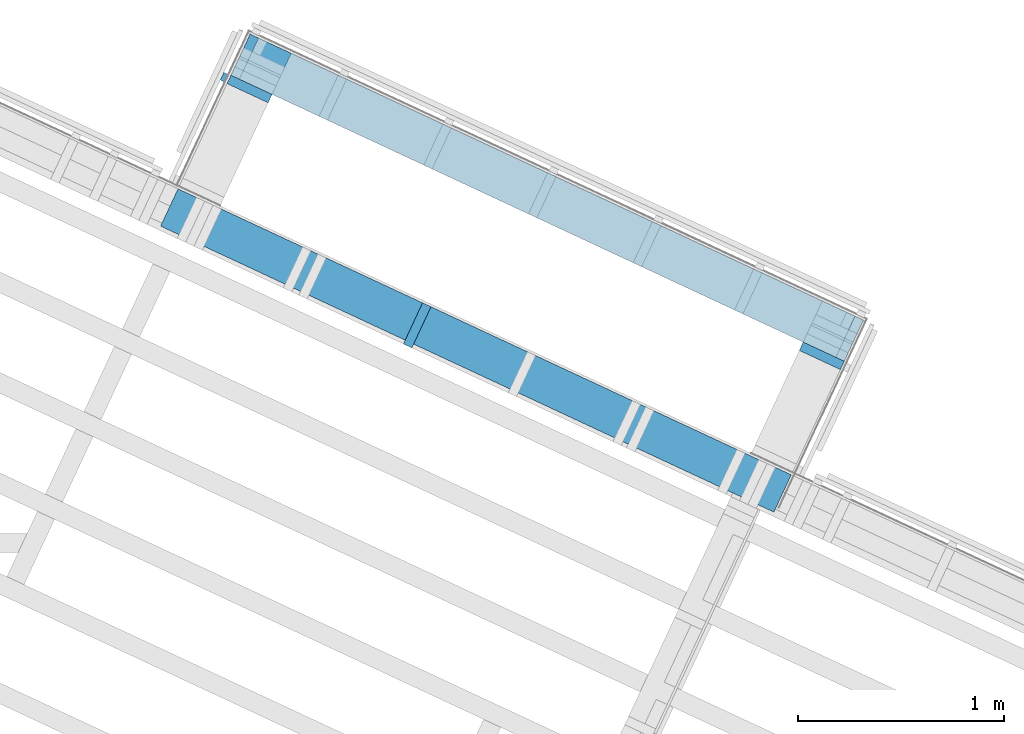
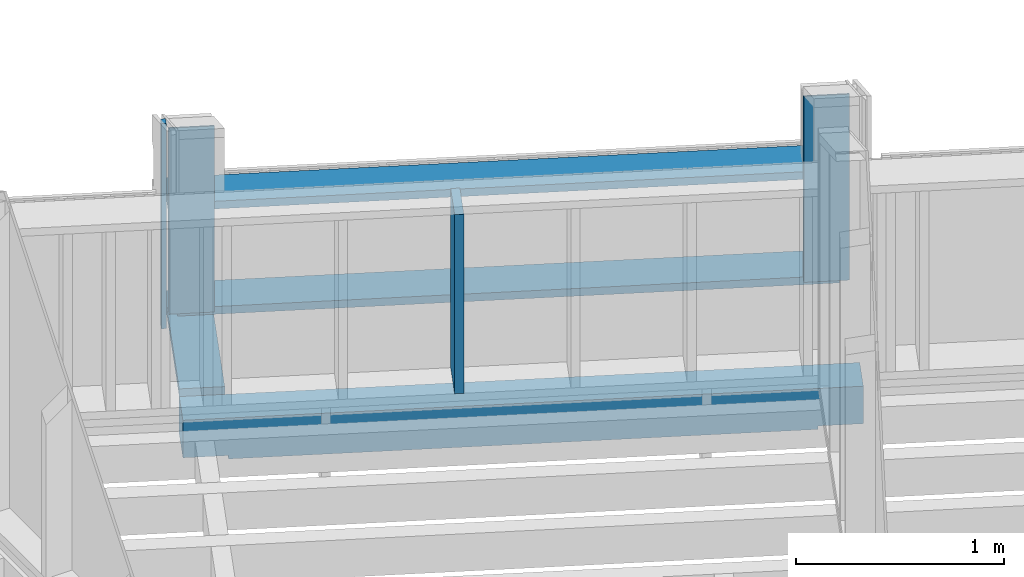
# One storey, part 13 of 24: 8 members.
"""IFC2X3 building model written with IfcOpenShell, lengths in metres."""

from ifc_helpers import new_model, si_unit, direction, frame, origin_with_axes, place, context, subcontext, project, spatial, faceted_brep, material, element, save


model = new_model("IFC2X3")

# Units and contexts
model_context = context("Model", 3, precision=1e-06, world=origin_with_axes(), true_north=direction((0.0, 1.0, 0.0)))
body_context = subcontext(model_context, "Body", "Model", "MODEL_VIEW")
ifc_project = project(units=[si_unit("LENGTHUNIT", "METRE"), si_unit("AREAUNIT", "SQUARE_METRE"), si_unit("VOLUMEUNIT", "CUBIC_METRE"), si_unit("PLANEANGLEUNIT", "RADIAN")], contexts=[model_context])

# Site, building, storey
site_placement = place(None, origin_with_axes())
site = spatial("IfcSite", under=ifc_project, at=site_placement, CompositionType="ELEMENT")
building_placement = place(site_placement, origin_with_axes())
building = spatial("IfcBuilding", under=site, at=building_placement, Name="Building 1", CompositionType="ELEMENT")
storey_placement = place(building_placement, origin_with_axes())
storey = spatial("IfcBuildingStorey", under=building, at=storey_placement, Name="Premier Etage", CompositionType="ELEMENT", Elevation=0.0)

# Members
ifc_material_1 = material(Name="Epicéa C24")
member_1_placement = place(storey_placement, frame((8.1579434, 7.8816029, 4.014291), z_axis=(-0.9063078, 0.4226183, 0.0), x_axis=(0.0, 0.0, -1.0)))
element("IfcMember", 1, at=member_1_placement, inside=storey, material=ifc_material_1, Name="latte 27/40", context=body_context, shape_type="Brep", body=[
    faceted_brep([(1.204291, 0.02, -0.012), (1.204291, 0.02, 0.012), (1.204291, -0.02, 0.012), (1.204291, -0.02, -0.012), (0.0, 0.02, 0.012), (0.0, 0.02, -0.012), (0.0, -0.02, -0.012), (0.0, -0.02, 0.012)], [[[0, 1, 2, 3]], [[4, 5, 6, 7]], [[3, 6, 5, 0]], [[2, 7, 6, 3]], [[1, 4, 7, 2]], [[0, 5, 4, 1]]]),
])
member_2_placement = place(storey_placement, frame((8.236598, 7.9911233, 3.4903974), z_axis=(-0.4226183, -0.9063078, 0.0), x_axis=(0.9063078, -0.4226183, 0.0)))
element("IfcMember", 2, at=member_2_placement, inside=storey, material=ifc_material_1, Name="Montant", context=body_context, shape_type="Brep", body=[
    faceted_brep([(0.0, -0.0225, -0.11), (0.0, -0.0225, 0.11), (0.0, 0.0225, 0.11), (0.0, 0.0225, -0.11), (3.284, -0.0225, 0.11), (3.284, -0.0225, -0.11), (3.284, 0.0225, -0.11), (3.284, 0.0225, 0.11)], [[[0, 1, 2, 3]], [[4, 5, 6, 7]], [[1, 4, 7, 2]], [[0, 5, 4, 1]], [[3, 6, 5, 0]], [[2, 7, 6, 3]]]),
])
member_3_placement = place(storey_placement, frame((8.2773819, 7.9721054, 2.8725), z_axis=(-0.4226183, -0.9063078, 0.0), x_axis=(0.9063078, -0.4226183, 0.0)))
element("IfcMember", 3, at=member_3_placement, inside=storey, material=ifc_material_1, Name="Montant", context=body_context, shape_type="Brep", body=[
    faceted_brep([(3.194, -0.0225, 0.11), (0.0, -0.0225, 0.11), (0.0, -0.0225, -0.11), (3.194, -0.0225, -0.11), (0.0, 0.0225, -0.11), (3.194, 0.0225, -0.11), (0.0, 0.0225, 0.11), (3.194, 0.0225, 0.11)], [[[0, 1, 2, 3]], [[3, 2, 4, 5]], [[6, 7, 5, 4]], [[7, 0, 3, 5]], [[7, 6, 1, 0]], [[1, 6, 4, 2]]]),
])
member_4_placement = place(storey_placement, frame((8.3827799, 8.0443291, 2.8275), z_axis=(0.9063078, -0.4226183, 0.0), x_axis=(-0.4226183, -0.9063078, 0.0)))
element("IfcMember", 4, at=member_4_placement, inside=storey, material=ifc_material_1, Name="Lisse basse", context=body_context, shape_type="Brep", body=[
    faceted_brep([(0.0, -0.0225, 0.11), (0.8282178, -0.0225, 0.11), (0.8282178, 0.0225, 0.11), (0.0, 0.0225, 0.11), (0.8282178, 0.0225, -0.11), (0.0, 0.0225, -0.11), (0.8282178, -0.0225, -0.11), (0.0, -0.0225, -0.11)], [[[0, 1, 2, 3]], [[3, 2, 4, 5]], [[5, 4, 6, 7]], [[7, 6, 1, 0]], [[7, 0, 3, 5]], [[1, 6, 4, 2]]]),
])
member_5_placement = place(storey_placement, frame((8.280295, 7.8245495, 3.9868668), z_axis=(-0.9063078, 0.4226183, 0.0), x_axis=(0.0, 0.0, -1.0)))
element("IfcMember", 5, at=member_5_placement, inside=storey, material=ifc_material_1, Name="Montant", context=body_context, shape_type="Brep", body=[
    faceted_brep([(0.0259808, -0.0225, 0.11), (0.0, 0.0225, 0.11), (0.0, 0.0225, -0.11), (0.0259808, -0.0225, -0.11), (1.0918668, 0.0225, 0.11), (1.0918668, 0.0225, -0.11), (1.0918668, -0.0225, 0.11), (1.0918668, -0.0225, -0.11)], [[[0, 1, 2, 3]], [[2, 1, 4, 5]], [[1, 0, 6, 4]], [[0, 3, 7, 6]], [[3, 2, 5, 7]], [[7, 5, 4, 6]]]),
])
ifc_material_2 = material(Name="NH II")
member_6_placement = place(storey_placement, frame((10.867119, 5.8616877, 2.685), z_axis=(0.0, 0.0, -1.0), x_axis=(-0.9063078, 0.4226183, 0.0)))
element("IfcMember", 6, at=member_6_placement, inside=storey, material=ifc_material_2, Name="Poutre Lc", context=body_context, shape_type="Brep", body=[
    faceted_brep([(3.284, 0.1, 0.1), (3.064, 0.1, 0.1), (3.064, -0.1, 0.1), (3.284, -0.1, 0.1), (3.064, 0.1, 0.12), (3.064, -0.1, 0.12), (3.284, -0.1, -0.12), (3.284, 0.1, -0.12), (0.22, -0.1, 0.12), (0.22, -0.1, 0.1), (0.0, -0.1, 0.1), (0.0, -0.1, -0.12), (0.22, 0.1, 0.12), (0.22, 0.1, 0.1), (0.0, 0.1, 0.1), (0.0, 0.1, -0.12)], [[[0, 1, 2, 3]], [[1, 4, 5, 2]], [[0, 3, 6, 7]], [[3, 2, 5, 8, 9, 10, 11, 6]], [[12, 13, 9, 8]], [[13, 14, 10, 9]], [[5, 4, 12, 8]], [[10, 14, 15, 11]], [[1, 0, 7, 15, 14, 13, 12, 4]], [[6, 11, 15, 7]]]),
])
member_7_placement = place(storey_placement, frame((11.0572221, 6.5296471, 3.9868668), z_axis=(0.9063078, -0.4226183, 0.0), x_axis=(0.0, 0.0, -1.0)))
element("IfcMember", 7, at=member_7_placement, inside=storey, material=ifc_material_1, Name="Montant", context=body_context, shape_type="Brep", body=[
    faceted_brep([(0.0259808, 0.0225, -0.11), (0.0, -0.0225, -0.11), (0.0, -0.0225, 0.11), (0.0259808, 0.0225, 0.11), (1.0918668, -0.0225, -0.11), (1.0918668, -0.0225, 0.11), (1.0918668, 0.0225, -0.11), (1.0918668, 0.0225, 0.11)], [[[0, 1, 2, 3]], [[2, 1, 4, 5]], [[1, 0, 6, 4]], [[0, 3, 7, 6]], [[3, 2, 5, 7]], [[4, 6, 7, 5]]]),
])
member_8_placement = place(storey_placement, frame((9.0939668, 6.6774884, 3.9460549), z_axis=(0.4226183, 0.9063078, 0.0), x_axis=(0.0, 0.0, -1.0)))
element("IfcMember", 8, at=member_8_placement, inside=storey, material=ifc_material_1, Name="Montant", context=body_context, shape_type="Brep", body=[
    faceted_brep([(1.0510549, -0.0225, -0.11), (1.0510549, 0.0225, -0.11), (1.0510549, 0.0225, 0.11), (1.0510549, -0.0225, 0.11), (0.0, -0.0225, 0.11), (0.0, -0.0225, -0.11), (0.0, 0.0225, -0.11), (0.0, 0.0225, 0.11)], [[[0, 1, 2, 3]], [[0, 3, 4, 5]], [[1, 0, 5, 6]], [[2, 1, 6, 7]], [[3, 2, 7, 4]], [[4, 7, 6, 5]]]),
])

save(model, "model.ifc")
